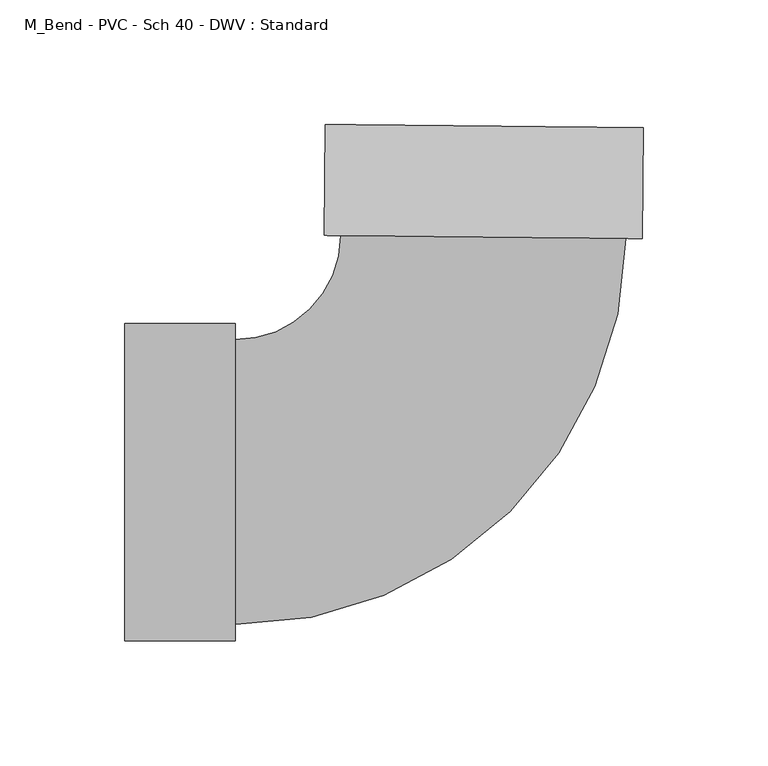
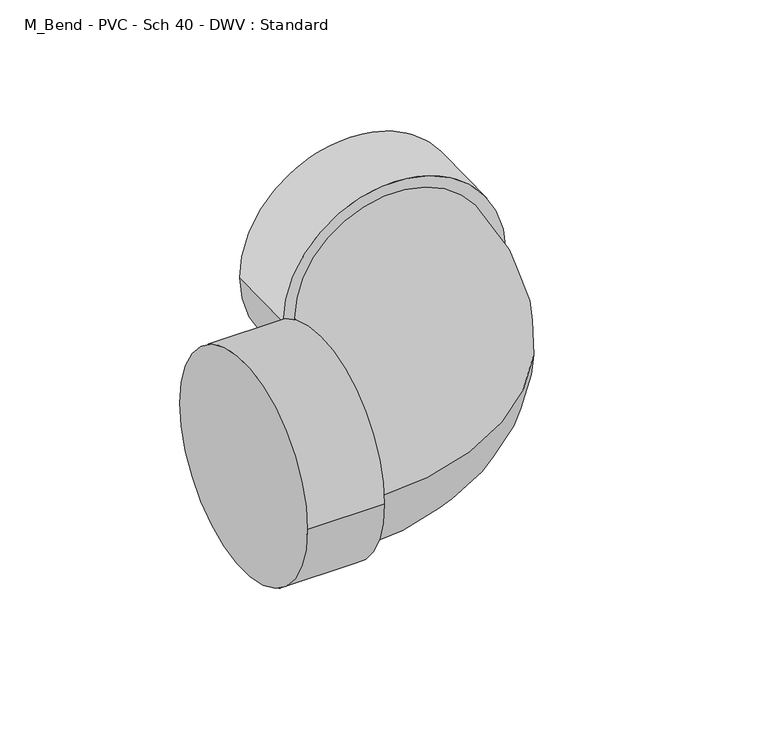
"""IFC4 building model written with IfcOpenShell, lengths in millimetres: pipe fitting geometry, M_Bend - PVC - Sch 40 - DWV : Standard."""

import ifcopenshell
import ifcopenshell.guid

model = None  # the IFC model being written
_history = None  # IfcOwnerHistory: only IFC2X3 demands one
_inside = {}  # id of a spatial element -> (the spatial element, [elements in it])
_under = {}  # id of a project, library or spatial element -> (it, [spatial elements below it])
_declared = {}  # id of a project -> (the project, [libraries it declares])
_typed = {}  # id of a type object -> (the type object, [elements of that type])
_made_of = {}  # id of a material, layer set ... -> (it, [elements and type objects made of it])


def new_model(schema):
    """Start an empty IFC model of exactly this schema.

    Asked for "IFC4X3", IfcOpenShell would pick the latest addendum, in which some entities
    have other attributes; the version numbers below select the first issue.
    IFC2X3 requires an IfcOwnerHistory on every rooted entity: one is made here for all.
    """
    global model, _history
    if schema == "IFC4X3":
        model = ifcopenshell.file(schema_version=(4, 3, 0, 0))
    else:
        model = ifcopenshell.file(schema=schema)
    _inside.clear()
    _under.clear()
    _declared.clear()
    _typed.clear()
    _made_of.clear()
    _history = None
    if model.schema == "IFC2X3":
        org = make("IfcOrganization", Name="unknown")
        user = make(
            "IfcPersonAndOrganization",
            ThePerson=make("IfcPerson", FamilyName="unknown"),
            TheOrganization=org,
        )
        app = make(
            "IfcApplication",
            ApplicationDeveloper=org,
            Version="unknown",
            ApplicationFullName="unknown",
            ApplicationIdentifier="unknown",
        )
        _history = make(
            "IfcOwnerHistory",
            OwningUser=user,
            OwningApplication=app,
            ChangeAction="ADDED",
            CreationDate=0,
        )
    return model


def make(cls, **values):
    """One entity of the class cls with the attributes given. An attribute that is None is left unset."""
    return model.create_entity(
        cls, **{name: value for name, value in values.items() if value is not None}
    )


def rooted(cls, **values):
    """An entity with a GlobalId (a new one), such as an element, a storey or a relation."""
    return make(cls, GlobalId=ifcopenshell.guid.new(), OwnerHistory=_history, **values)


def si_unit(unit_type, name, prefix=None):
    """IfcSIUnit, for example si_unit("LENGTHUNIT", "METRE", prefix="MILLI")."""
    return make("IfcSIUnit", UnitType=unit_type, Prefix=prefix, Name=name)


def assignment(units):
    """IfcUnitAssignment: the units of a project."""
    return None if units is None else make("IfcUnitAssignment", Units=units)


def point(xyz):
    """IfcCartesianPoint."""
    return None if xyz is None else make("IfcCartesianPoint", Coordinates=xyz)


def direction(xyz):
    """IfcDirection."""
    return None if xyz is None else make("IfcDirection", DirectionRatios=xyz)


def frame(location, z_axis=None, x_axis=None):
    """IfcAxis2Placement3D, a coordinate frame: its origin and axes. An axis left out is left unset."""
    return make(
        "IfcAxis2Placement3D",
        Location=point(location),
        Axis=direction(z_axis),
        RefDirection=direction(x_axis),
    )


def origin():
    """The frame at (0, 0, 0) with its axes left unset."""
    return frame((0.0, 0.0, 0.0))


def place(relative_to, where):
    """IfcLocalPlacement: puts the frame where relative to a parent placement (None: the world)."""
    return make(
        "IfcLocalPlacement", PlacementRelTo=relative_to, RelativePlacement=where
    )


def context(
    kind, dimensions, precision=None, world=None, true_north=None, identifier=None
):
    """IfcGeometricRepresentationContext, for example the 3D "Model" context."""
    return make(
        "IfcGeometricRepresentationContext",
        ContextIdentifier=identifier,
        ContextType=kind,
        CoordinateSpaceDimension=dimensions,
        Precision=precision,
        WorldCoordinateSystem=world,
        TrueNorth=true_north,
    )


def project(units=None, contexts=None):
    """IfcProject with its units and contexts."""
    return rooted(
        "IfcProject",
        Name="project",
        RepresentationContexts=contexts,
        UnitsInContext=assignment(units),
    )


def spatial(cls, under=None, at=None, **own):
    """A site, building, storey or space (cls), placed at a placement, below another one or the project."""
    s = rooted(cls, ObjectPlacement=at, **own)
    if under is not None:
        _under.setdefault(under.id(), (under, []))[1].append(s)
    return s


def circle_curve(where, radius):
    """IfcCircle in the frame where."""
    return make("IfcCircle", Position=where, Radius=radius)


def ellipse_curve(where, semi_axis1, semi_axis2):
    """IfcEllipse in the frame where."""
    return make(
        "IfcEllipse", Position=where, SemiAxis1=semi_axis1, SemiAxis2=semi_axis2
    )


def trimmed(basis, trim1, trim2, sense, master):
    """IfcTrimmedCurve: the piece of a basis curve between two trims."""
    return make(
        "IfcTrimmedCurve",
        BasisCurve=basis,
        Trim1=trim1,
        Trim2=trim2,
        SenseAgreement=sense,
        MasterRepresentation=master,
    )


def shape(context_of_items, identifier, shape_type, items):
    """IfcShapeRepresentation: the items that make up one representation, for example the "Body"."""
    return make(
        "IfcShapeRepresentation",
        ContextOfItems=context_of_items,
        RepresentationIdentifier=identifier,
        RepresentationType=shape_type,
        Items=items,
    )


def source(mapping_origin, context_of_items, identifier, shape_type, items):
    """IfcRepresentationMap: a shape defined once, which mapped items show again and again."""
    return make(
        "IfcRepresentationMap",
        MappingOrigin=mapping_origin,
        MappedRepresentation=shape(context_of_items, identifier, shape_type, items),
    )


def transform(
    local_origin,
    x_axis=None,
    y_axis=None,
    z_axis=None,
    scale=None,
    scale2=None,
    scale3=None,
    uniform=True,
):
    """IfcCartesianTransformationOperator3D, or its non-uniform kind. x_axis, y_axis, z_axis: its Axis1, 2, 3."""
    if uniform:
        return make(
            "IfcCartesianTransformationOperator3D",
            Axis1=direction(x_axis),
            Axis2=direction(y_axis),
            LocalOrigin=point(local_origin),
            Scale=scale,
            Axis3=direction(z_axis),
        )
    return make(
        "IfcCartesianTransformationOperator3DnonUniform",
        Axis1=direction(x_axis),
        Axis2=direction(y_axis),
        LocalOrigin=point(local_origin),
        Scale=scale,
        Axis3=direction(z_axis),
        Scale2=scale2,
        Scale3=scale3,
    )


def mapped(mapping_source, mapping_target):
    """IfcMappedItem: shows the shape of a source again, moved by a transform."""
    return make(
        "IfcMappedItem", MappingSource=mapping_source, MappingTarget=mapping_target
    )


def made_of(thing, what):
    """Note that an element or type object is made of a material, layer set ...; save() writes the relation."""
    if what is not None:
        _made_of.setdefault(what.id(), (what, []))[1].append(thing)
    return thing


def element(
    cls,
    number,
    at=None,
    inside=None,
    cuts=None,
    type_object=None,
    material=None,
    context=None,
    identifier="Body",
    shape_type=None,
    held_by="IfcProductDefinitionShape",
    body=None,
    shapes=None,
    **own,
):
    """One element of the class cls, such as IfcWall. Its Tag is "e" and its number.

    at: its placement. inside: the storey or other place that contains it. cuts: it is an
    opening in that element (IfcRelVoidsElement). A single representation is given by context,
    identifier, shape_type and body (its items); several are given by shapes. held_by: the class
    of the entity that holds the representations. save() writes the other relations.
    """
    e = rooted(cls, Tag="e%d" % number, ObjectPlacement=at, **own)
    if body is not None:
        shapes = [shape(context, identifier, shape_type, body)]
    if shapes is not None:
        e.Representation = make(held_by, Representations=shapes)
    if inside is not None:
        _inside.setdefault(inside.id(), (inside, []))[1].append(e)
    if cuts is not None:
        rooted(
            "IfcRelVoidsElement", RelatingBuildingElement=cuts, RelatedOpeningElement=e
        )
    if type_object is not None:
        _typed.setdefault(type_object.id(), (type_object, []))[1].append(e)
    return made_of(e, material)


def aggregate(whole, parts):
    """IfcRelAggregates: a whole, such as a stair, and the parts it consists of."""
    return rooted("IfcRelAggregates", RelatingObject=whole, RelatedObjects=parts)


def save(model, path):
    """Write the relations noted so far, then the file.

    IfcRelAggregates (storeys below a building ...), IfcRelContainedInSpatialStructure (elements
    in a storey), IfcRelDefinesByType, IfcRelAssociatesMaterial and IfcRelDeclares: one each for
    every whole, place, type object, material and project.
    """
    for whole, parts in _under.values():
        aggregate(whole, parts)
    for where, things in _inside.values():
        rooted(
            "IfcRelContainedInSpatialStructure",
            RelatedElements=things,
            RelatingStructure=where,
        )
    for kind, things in _typed.values():
        rooted("IfcRelDefinesByType", RelatedObjects=things, RelatingType=kind)
    for what, things in _made_of.values():
        rooted("IfcRelAssociatesMaterial", RelatedObjects=things, RelatingMaterial=what)
    for by, libraries in _declared.values():
        rooted("IfcRelDeclares", RelatingContext=by, RelatedDefinitions=libraries)
    model.write(path)


def plane_surface(at):
    """IfcPlane: the flat surface through the origin of the frame at, square to its z axis."""
    return make("IfcPlane", Position=at)


def cylinder_surface(at, radius):
    """IfcCylindricalSurface: all points at the distance radius from the z axis of the frame at."""
    return make("IfcCylindricalSurface", Position=at, Radius=radius)


def revolved_surface(curve, axis_point, axis_direction):
    """IfcSurfaceOfRevolution: the curve turned about the line through axis_point along axis_direction."""
    return make(
        "IfcSurfaceOfRevolution",
        SweptCurve=make("IfcArbitraryOpenProfileDef", ProfileType="CURVE", Curve=curve),
        AxisPosition=make("IfcAxis1Placement", Location=point(axis_point), Axis=direction(axis_direction)),
    )


def advanced_brep(points, edges, surfaces, faces):
    """IfcAdvancedBrep: a solid bounded by faces that lie on surfaces and meet in shared edges.

    An edge is (start, end): straight between two places in points (the first is 0);
    or (start, end, curve); or (start, end, curve, False) where it runs against its curve.
    A face is (place in surfaces, loops), or (place, loops, False) where it looks against
    its surface's normal. A loop lists edges by number (the first is 1), with a minus sign
    where the edge is run from its end to its start. The first loop is the outer one.
    """
    corners = [point(p) for p in points]
    vertices = [make("IfcVertexPoint", VertexGeometry=c) for c in corners]
    made = []
    for start, end, *more in edges:
        made.append(
            make(
                "IfcEdgeCurve",
                EdgeStart=vertices[start],
                EdgeEnd=vertices[end],
                EdgeGeometry=more[0] if more else make("IfcPolyline", Points=[corners[start], corners[end]]),
                SameSense=more[1] if len(more) > 1 else True,
            )
        )
    hull = []
    for where, loops, *sense in faces:
        bounds = []
        for j, loop in enumerate(loops):
            ring = [make("IfcOrientedEdge", EdgeElement=made[abs(k) - 1], Orientation=k > 0) for k in loop]
            bounds.append(
                make(
                    "IfcFaceOuterBound" if j == 0 else "IfcFaceBound",
                    Bound=make("IfcEdgeLoop", EdgeList=ring),
                    Orientation=True,
                )
            )
        hull.append(make("IfcAdvancedFace", Bounds=bounds, FaceSurface=surfaces[where], SameSense=sense[0] if sense else True))
    return make("IfcAdvancedBrep", Outer=make("IfcClosedShell", CfsFaces=hull))


def m_bend_pvc_sch_40_dwv_standard_b7b4a97e(model_context):
    return source(origin(), model_context, "Body", "AdvancedBrep", [
        advanced_brep(
        [(-142.875, -63.754, 0.0), (-142.875, 63.754, 0.0), (-98.425, -63.754, 0.0), (-98.425, 63.754, 0.0), (-98.425, -57.15, 0.0), (-98.425, 57.15, 0.0), (-56.1629419, 98.9915505, 0.0), (58.1313435, 97.8486077, 0.0), (64.7350133, 97.782571, 0.0), (-62.7666117, 99.0575872, 0.0), (65.1794911, 142.2303487, 0.0), (-62.322134, 143.5053649, 0.0)],
        [
            (0, 1, circle_curve(frame((-142.875, 0.0, 0.0), z_axis=(-1.0, 0.0, 0.0), x_axis=(0.0, 1.0, 0.0)), 63.754)),
            (1, 0, circle_curve(frame((-142.875, 0.0, 0.0), z_axis=(-1.0, 0.0, 0.0), x_axis=(0.0, 1.0, 0.0)), 63.754)),
            (2, 3, circle_curve(frame((-98.425, 0.0, 0.0), z_axis=(1.0, 0.0, 0.0), x_axis=(0.0, 1.0, 0.0)), 63.754)),
            (3, 2, circle_curve(frame((-98.425, 0.0, 0.0), z_axis=(1.0, 0.0, 0.0), x_axis=(0.0, 1.0, 0.0)), 63.754)),
            (4, 5, circle_curve(frame((-98.425, 0.0, 0.0), z_axis=(-1.0, 0.0, 0.0), x_axis=(0.0, 1.0, 0.0)), 57.15)),
            (5, 4, circle_curve(frame((-98.425, 0.0, 0.0), z_axis=(-1.0, 0.0, 0.0), x_axis=(0.0, 1.0, 0.0)), 57.15)),
            (0, 2),
            (3, 1),
            (6, 5, circle_curve(frame((-98.425, 99.4141711, 0.0), z_axis=(0.0, 0.0, -1.0), x_axis=(0.0, -1.0, 0.0)), 42.2641711)),
            (4, 7, circle_curve(frame((-98.425, 99.4141711, 0.0), z_axis=(0.0, 0.0, 1.0), x_axis=(0.0, -1.0, 0.0)), 156.5641711)),
            (7, 6, circle_curve(frame((0.9842008, 98.4200791, 0.0), z_axis=(-0.009999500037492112, -0.9999500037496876, 0.0), x_axis=(-0.9999500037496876, 0.009999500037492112, 0.0)), 57.15)),
            (6, 7, circle_curve(frame((0.9842008, 98.4200791, 0.0), z_axis=(-0.009999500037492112, -0.9999500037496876, 0.0), x_axis=(-0.9999500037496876, 0.009999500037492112, 0.0)), 57.15)),
            (8, 9, circle_curve(frame((0.9842008, 98.4200791, 0.0), z_axis=(-0.0099995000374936, -0.9999500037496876, 0.0), x_axis=(-0.9999500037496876, 0.0099995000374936, 0.0)), 63.754)),
            (9, 8, circle_curve(frame((0.9842008, 98.4200791, 0.0), z_axis=(-0.0099995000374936, -0.9999500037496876, 0.0), x_axis=(-0.9999500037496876, 0.0099995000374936, 0.0)), 63.754)),
            (10, 11, circle_curve(frame((1.4286786, 142.8678568, 0.0), z_axis=(0.0099995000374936, 0.9999500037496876, 0.0), x_axis=(-0.9999500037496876, 0.0099995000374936, 0.0)), 63.754)),
            (11, 10, circle_curve(frame((1.4286786, 142.8678568, 0.0), z_axis=(0.0099995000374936, 0.9999500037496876, 0.0), x_axis=(-0.9999500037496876, 0.0099995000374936, 0.0)), 63.754)),
            (8, 10),
            (11, 9),
        ],
        [
            plane_surface(frame((-142.875, 0.0, 0.0), z_axis=(-1.0, 0.0, 0.0), x_axis=(0.0, 0.0, 1.0))),
            plane_surface(frame((-98.425, 0.0, 0.0), z_axis=(1.0, 0.0, 0.0), x_axis=(0.0, 0.0, 1.0))),
            cylinder_surface(frame((-142.875, 0.0, 0.0), z_axis=(-1.0, 0.0, 0.0), x_axis=(0.0, 1.0, 0.0)), 63.754),
            revolved_surface(trimmed(ellipse_curve(frame((-98.425, 0.0, 0.0), z_axis=(-1.0, 0.0, 0.0), x_axis=(0.0, 1.0, 0.0)), 57.15, 57.15), [point((-98.425, -57.15, 0.0))], [point((-98.425, 57.15, 0.0))], True, "CARTESIAN"), (-98.425, 99.4141711, 0.0), (0.0, 0.0, 1.0)),
            revolved_surface(trimmed(ellipse_curve(frame((-98.425, 0.0, 0.0), z_axis=(-1.0, 0.0, 0.0), x_axis=(0.0, 1.0, 0.0)), 57.15, 57.15), [point((-98.425, 57.15, 0.0))], [point((-98.425, -57.15, 0.0))], True, "CARTESIAN"), (-98.425, 99.4141711, 0.0), (0.0, 0.0, 1.0)),
            plane_surface(frame((0.9842008, 98.4200791, 0.0), z_axis=(-0.009999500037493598, -0.9999500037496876, 0.0), x_axis=(0.0, 0.0, 1.0))),
            plane_surface(frame((1.4286786, 142.8678568, 0.0), z_axis=(0.009999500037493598, 0.9999500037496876, 0.0), x_axis=(0.0, 0.0, 1.0))),
            cylinder_surface(frame((0.9842008, 98.4200791, 0.0), z_axis=(-0.0099995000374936, -0.9999500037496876, 0.0), x_axis=(-0.9999500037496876, 0.0099995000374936, 0.0)), 63.754),
        ],
        [
            (0, [[1, 2]]),
            (1, [[3, 4], [5, 6]]),
            (2, [[-1, 7, -4, 8]]),
            (2, [[-2, -8, -3, -7]]),
            (3, [[9, -5, 10, 11]]),
            (4, [[-9, 12, -10, -6]]),
            (5, [[13, 14], [-11, -12]]),
            (6, [[15, 16]]),
            (7, [[-13, 17, -16, 18]]),
            (7, [[-14, -18, -15, -17]]),
        ],
    ),
    ])


if __name__ == "__main__":
    model = new_model("IFC4")
    model_context = context("Model", 3, world=origin())
    ifc_project = project(units=[si_unit("LENGTHUNIT", "METRE", prefix="MILLI")], contexts=[model_context])
    site = spatial("IfcSite", under=ifc_project)
    building = spatial("IfcBuilding", under=site)
    placement = place(None, origin())
    m_bend_pvc_sch_40_dwv_standard_shape = m_bend_pvc_sch_40_dwv_standard_b7b4a97e(model_context)
    element("IfcPipeFitting", 1, ObjectType="M_Bend - PVC - Sch 40 - DWV : Standard", at=placement, inside=building, context=model_context, shape_type="MappedRepresentation", body=[
        mapped(m_bend_pvc_sch_40_dwv_standard_shape, transform((0.0, 0.0, 0.0), x_axis=(1.0, 0.0, 0.0), y_axis=(0.0, 1.0, 0.0), z_axis=(0.0, 0.0, 1.0))),
    ])
    save(model, "model.ifc")
